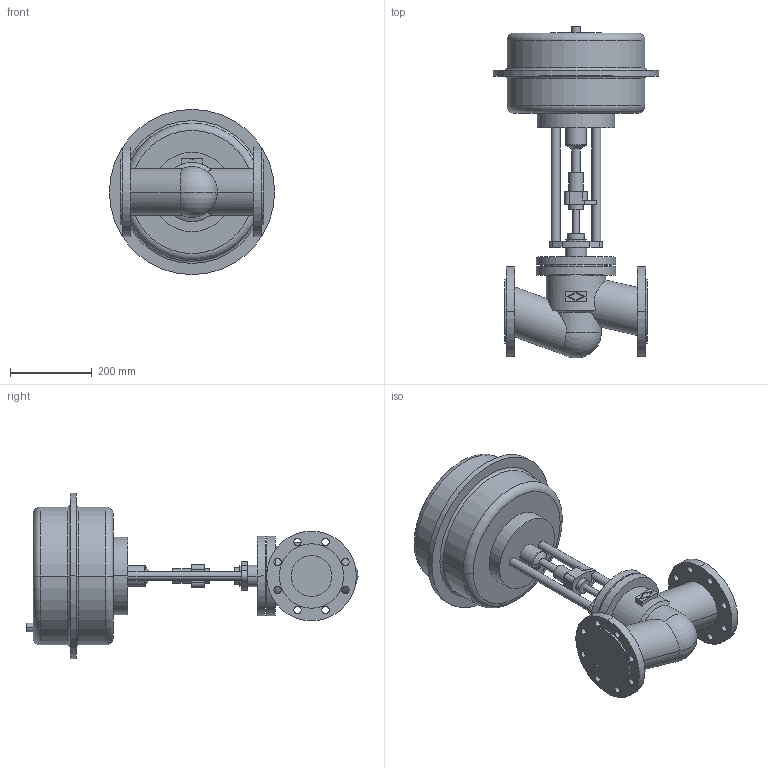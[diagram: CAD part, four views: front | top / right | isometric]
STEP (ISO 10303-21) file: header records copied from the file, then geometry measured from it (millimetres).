
FILE_DESCRIPTION(('OneSpaceDesigner STEP Export'),'2;1');
FILE_NAME('c000001494.stp','2005-02-15T 9:35:14',(''),(''),'OneSpace Designer STEP processor (Jan. 2003) for AP203(Solid Model)','OneSpace Designer 12.01D 09-Jul-2004 (C) CoCreate Software GmbH','');
FILE_SCHEMA(('CONFIG_CONTROL_DESIGN'));
Length unit declared in the file: millimetre
Products named in the file (2): 1; 2
Bounding box: 405 x 813.97 x 405 mm (x, y, z)
Volume: 27245413.9 mm3; surface area: 975793.8 mm2
Topology: 2 solids, 2 shells, 172 faces, 416 edges, 273 vertices
Faces by surface type: cylinder 96, plane 60, torus 10, cone 4, sphere 2
Entity records: 4877 total; most frequent: CARTESIAN_POINT 1018, ORIENTED_EDGE 828, DIRECTION 669, EDGE_CURVE 414, VERTEX_POINT 273, AXIS2_PLACEMENT_3D 245, EDGE_LOOP 231, VECTOR 179
